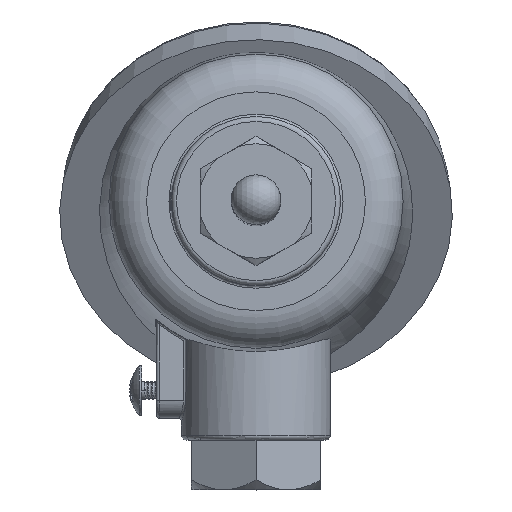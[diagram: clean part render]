
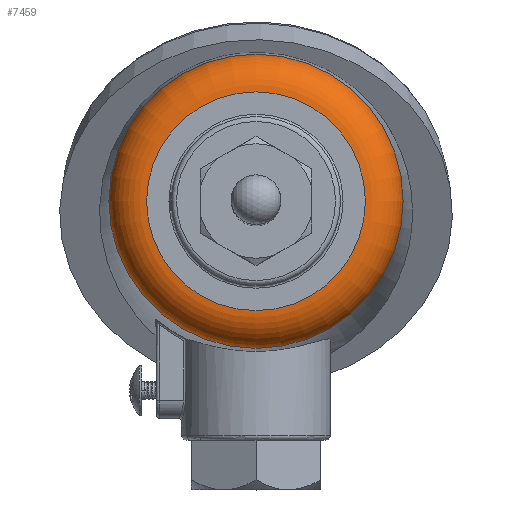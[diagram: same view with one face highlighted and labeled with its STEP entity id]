
A CAD part, top view. The second image highlights one B-rep face of the part: STEP entity #7459.
In plain terms, the highlighted toroidal (fillet/blend) face has major radius 22 mm and minor radius 7.622 mm.
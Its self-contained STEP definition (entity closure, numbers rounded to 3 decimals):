
#90 = DIRECTION ( 'NONE',  ( 0., 0., 1. ) ) ;
#161 = VERTEX_POINT ( 'NONE', #838 ) ;
#758 = CARTESIAN_POINT ( 'NONE',  ( 0., -29.597, -32.6 ) ) ;
#787 = CARTESIAN_POINT ( 'NONE',  ( 0., 0., -32.6 ) ) ;
#838 = CARTESIAN_POINT ( 'NONE',  ( 0., -22., -25.6 ) ) ;
#1157 = AXIS2_PLACEMENT_3D ( 'NONE', #3227, #6990, #3826 ) ;
#1199 = CIRCLE ( 'NONE', #5934, 29.597 ) ;
#1242 = FACE_OUTER_BOUND ( 'NONE', #4965, .T. ) ;
#1320 = DIRECTION ( 'NONE',  ( 0., -1., 0. ) ) ;
#1766 = EDGE_LOOP ( 'NONE', ( #3525 ) ) ;
#1944 = CARTESIAN_POINT ( 'NONE',  ( 0., 0., -25.6 ) ) ;
#2885 = AXIS2_PLACEMENT_3D ( 'NONE', #1944, #90, #1320 ) ;
#3185 = FACE_OUTER_BOUND ( 'NONE', #1766, .T. ) ;
#3227 = CARTESIAN_POINT ( 'NONE',  ( 0., 0., -33.222 ) ) ;
#3525 = ORIENTED_EDGE ( 'NONE', *, *, #5589, .F. ) ;
#3826 = DIRECTION ( 'NONE',  ( 0., -1., 0. ) ) ;
#3933 = VERTEX_POINT ( 'NONE', #758 ) ;
#4092 = EDGE_CURVE ( 'NONE', #3933, #3933, #1199, .T. ) ;
#4800 = ORIENTED_EDGE ( 'NONE', *, *, #4092, .T. ) ;
#4965 = EDGE_LOOP ( 'NONE', ( #4800 ) ) ;
#5589 = EDGE_CURVE ( 'NONE', #161, #161, #7342, .T. ) ;
#5903 = DIRECTION ( 'NONE',  ( 0., 0., 1. ) ) ;
#5934 = AXIS2_PLACEMENT_3D ( 'NONE', #787, #5903, #6496 ) ;
#6496 = DIRECTION ( 'NONE',  ( 0., -1., 0. ) ) ;
#6990 = DIRECTION ( 'NONE',  ( 0., 0., 1. ) ) ;
#7342 = CIRCLE ( 'NONE', #2885, 22. ) ;
#7459 = ADVANCED_FACE ( 'NONE', ( #1242, #3185 ), #8171, .T. ) ;
#8171 = TOROIDAL_SURFACE ( 'NONE', #1157, 22., 7.622 ) ;
